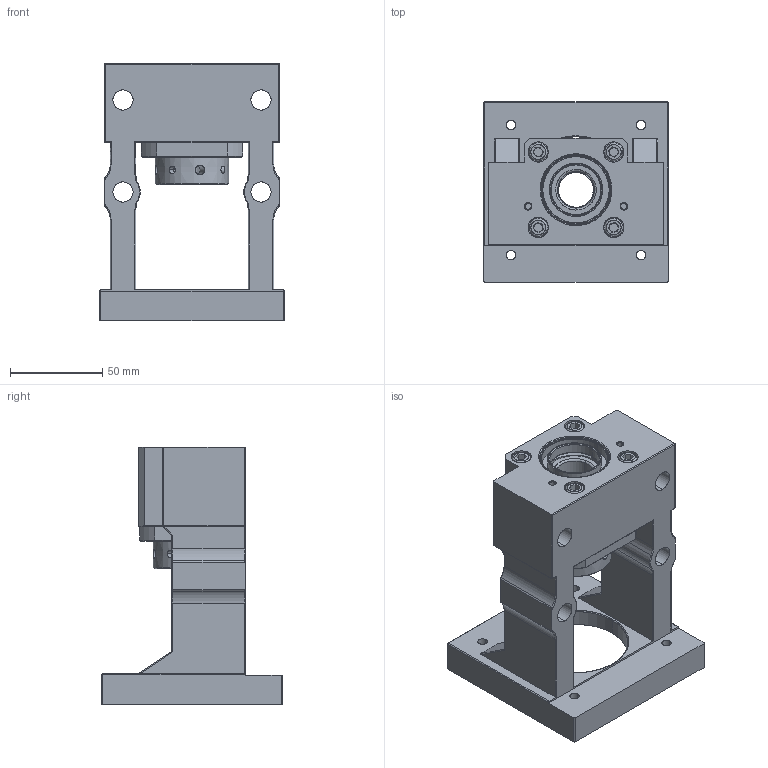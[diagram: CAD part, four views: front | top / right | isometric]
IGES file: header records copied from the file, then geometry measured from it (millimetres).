
Start section: SolidWorks IGES file using analytic representation for surfaces
Global section: file name: C:\Users\117\Desktop\1061208網站3D圖檔問題處理\傳動座\整合型\MBCS(F)\MBCS20\MBCS20-X.IGS,15HSolidWorks; native system: 2017; preprocessor: SolidWorks 2017; author: 117; date: 171228.155239; units: millimetre
Bounding box: 100 x 98 x 140 mm (x, y, z)
Surface area: 86058.3 mm2 (no closed solid volume)
Topology: 0 solids, 0 shells, 350 faces, 5652 edges, 5634 vertices
Faces by surface type: revolution 202, bspline 148
